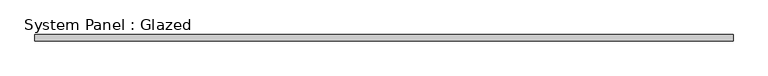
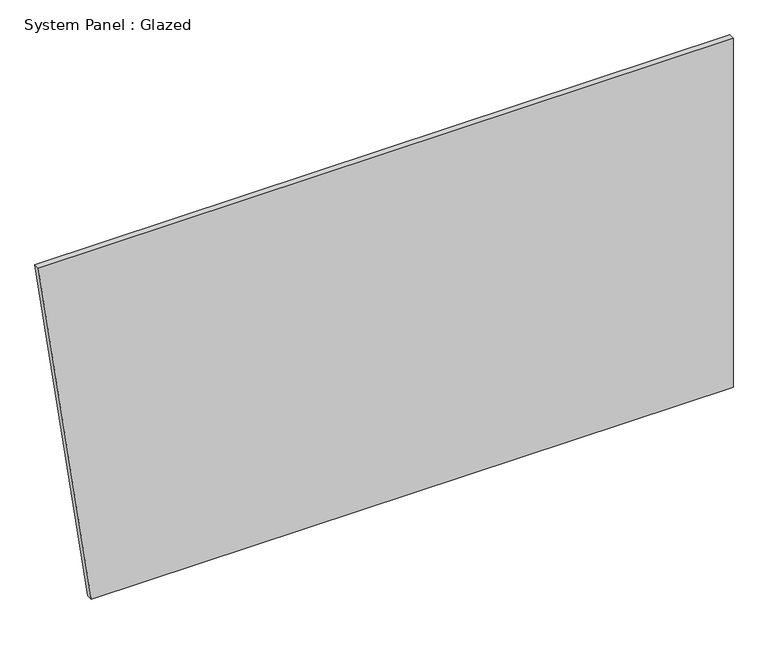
"""IFC4 building model written with IfcOpenShell, lengths in millimetres: plate geometry, System Panel : Glazed."""

import ifcopenshell
import ifcopenshell.guid

model = None  # the IFC model being written
_history = None  # IfcOwnerHistory: only IFC2X3 demands one
_inside = {}  # id of a spatial element -> (the spatial element, [elements in it])
_under = {}  # id of a project, library or spatial element -> (it, [spatial elements below it])
_declared = {}  # id of a project -> (the project, [libraries it declares])
_typed = {}  # id of a type object -> (the type object, [elements of that type])
_made_of = {}  # id of a material, layer set ... -> (it, [elements and type objects made of it])


def new_model(schema):
    """Start an empty IFC model of exactly this schema.

    Asked for "IFC4X3", IfcOpenShell would pick the latest addendum, in which some entities
    have other attributes; the version numbers below select the first issue.
    IFC2X3 requires an IfcOwnerHistory on every rooted entity: one is made here for all.
    """
    global model, _history
    if schema == "IFC4X3":
        model = ifcopenshell.file(schema_version=(4, 3, 0, 0))
    else:
        model = ifcopenshell.file(schema=schema)
    _inside.clear()
    _under.clear()
    _declared.clear()
    _typed.clear()
    _made_of.clear()
    _history = None
    if model.schema == "IFC2X3":
        org = make("IfcOrganization", Name="unknown")
        user = make(
            "IfcPersonAndOrganization",
            ThePerson=make("IfcPerson", FamilyName="unknown"),
            TheOrganization=org,
        )
        app = make(
            "IfcApplication",
            ApplicationDeveloper=org,
            Version="unknown",
            ApplicationFullName="unknown",
            ApplicationIdentifier="unknown",
        )
        _history = make(
            "IfcOwnerHistory",
            OwningUser=user,
            OwningApplication=app,
            ChangeAction="ADDED",
            CreationDate=0,
        )
    return model


def make(cls, **values):
    """One entity of the class cls with the attributes given. An attribute that is None is left unset."""
    return model.create_entity(
        cls, **{name: value for name, value in values.items() if value is not None}
    )


def rooted(cls, **values):
    """An entity with a GlobalId (a new one), such as an element, a storey or a relation."""
    return make(cls, GlobalId=ifcopenshell.guid.new(), OwnerHistory=_history, **values)


def si_unit(unit_type, name, prefix=None):
    """IfcSIUnit, for example si_unit("LENGTHUNIT", "METRE", prefix="MILLI")."""
    return make("IfcSIUnit", UnitType=unit_type, Prefix=prefix, Name=name)


def assignment(units):
    """IfcUnitAssignment: the units of a project."""
    return None if units is None else make("IfcUnitAssignment", Units=units)


def point(xyz):
    """IfcCartesianPoint."""
    return None if xyz is None else make("IfcCartesianPoint", Coordinates=xyz)


def direction(xyz):
    """IfcDirection."""
    return None if xyz is None else make("IfcDirection", DirectionRatios=xyz)


def frame(location, z_axis=None, x_axis=None):
    """IfcAxis2Placement3D, a coordinate frame: its origin and axes. An axis left out is left unset."""
    return make(
        "IfcAxis2Placement3D",
        Location=point(location),
        Axis=direction(z_axis),
        RefDirection=direction(x_axis),
    )


def origin():
    """The frame at (0, 0, 0) with its axes left unset."""
    return frame((0.0, 0.0, 0.0))


def place(relative_to, where):
    """IfcLocalPlacement: puts the frame where relative to a parent placement (None: the world)."""
    return make(
        "IfcLocalPlacement", PlacementRelTo=relative_to, RelativePlacement=where
    )


def context(
    kind, dimensions, precision=None, world=None, true_north=None, identifier=None
):
    """IfcGeometricRepresentationContext, for example the 3D "Model" context."""
    return make(
        "IfcGeometricRepresentationContext",
        ContextIdentifier=identifier,
        ContextType=kind,
        CoordinateSpaceDimension=dimensions,
        Precision=precision,
        WorldCoordinateSystem=world,
        TrueNorth=true_north,
    )


def project(units=None, contexts=None):
    """IfcProject with its units and contexts."""
    return rooted(
        "IfcProject",
        Name="project",
        RepresentationContexts=contexts,
        UnitsInContext=assignment(units),
    )


def spatial(cls, under=None, at=None, **own):
    """A site, building, storey or space (cls), placed at a placement, below another one or the project."""
    s = rooted(cls, ObjectPlacement=at, **own)
    if under is not None:
        _under.setdefault(under.id(), (under, []))[1].append(s)
    return s


def polyline(points):
    """IfcPolyline through the points."""
    return make("IfcPolyline", Points=[point(p) for p in points])


def outline(outer, holes=None, kind="AREA"):
    """IfcArbitraryClosedProfileDef: a profile drawn as a closed curve; with holes, ...WithVoids."""
    if holes is None:
        return make("IfcArbitraryClosedProfileDef", ProfileType=kind, OuterCurve=outer)
    return make(
        "IfcArbitraryProfileDefWithVoids",
        ProfileType=kind,
        OuterCurve=outer,
        InnerCurves=holes,
    )


def extrude(swept, where, along, depth):
    """IfcExtrudedAreaSolid: the profile swept, set in the frame where, extruded along a direction by depth."""
    return make(
        "IfcExtrudedAreaSolid",
        SweptArea=swept,
        Position=where,
        ExtrudedDirection=direction(along),
        Depth=depth,
    )


def shape(context_of_items, identifier, shape_type, items):
    """IfcShapeRepresentation: the items that make up one representation, for example the "Body"."""
    return make(
        "IfcShapeRepresentation",
        ContextOfItems=context_of_items,
        RepresentationIdentifier=identifier,
        RepresentationType=shape_type,
        Items=items,
    )


def source(mapping_origin, context_of_items, identifier, shape_type, items):
    """IfcRepresentationMap: a shape defined once, which mapped items show again and again."""
    return make(
        "IfcRepresentationMap",
        MappingOrigin=mapping_origin,
        MappedRepresentation=shape(context_of_items, identifier, shape_type, items),
    )


def transform(
    local_origin,
    x_axis=None,
    y_axis=None,
    z_axis=None,
    scale=None,
    scale2=None,
    scale3=None,
    uniform=True,
):
    """IfcCartesianTransformationOperator3D, or its non-uniform kind. x_axis, y_axis, z_axis: its Axis1, 2, 3."""
    if uniform:
        return make(
            "IfcCartesianTransformationOperator3D",
            Axis1=direction(x_axis),
            Axis2=direction(y_axis),
            LocalOrigin=point(local_origin),
            Scale=scale,
            Axis3=direction(z_axis),
        )
    return make(
        "IfcCartesianTransformationOperator3DnonUniform",
        Axis1=direction(x_axis),
        Axis2=direction(y_axis),
        LocalOrigin=point(local_origin),
        Scale=scale,
        Axis3=direction(z_axis),
        Scale2=scale2,
        Scale3=scale3,
    )


def mapped(mapping_source, mapping_target):
    """IfcMappedItem: shows the shape of a source again, moved by a transform."""
    return make(
        "IfcMappedItem", MappingSource=mapping_source, MappingTarget=mapping_target
    )


def made_of(thing, what):
    """Note that an element or type object is made of a material, layer set ...; save() writes the relation."""
    if what is not None:
        _made_of.setdefault(what.id(), (what, []))[1].append(thing)
    return thing


def element(
    cls,
    number,
    at=None,
    inside=None,
    cuts=None,
    type_object=None,
    material=None,
    context=None,
    identifier="Body",
    shape_type=None,
    held_by="IfcProductDefinitionShape",
    body=None,
    shapes=None,
    **own,
):
    """One element of the class cls, such as IfcWall. Its Tag is "e" and its number.

    at: its placement. inside: the storey or other place that contains it. cuts: it is an
    opening in that element (IfcRelVoidsElement). A single representation is given by context,
    identifier, shape_type and body (its items); several are given by shapes. held_by: the class
    of the entity that holds the representations. save() writes the other relations.
    """
    e = rooted(cls, Tag="e%d" % number, ObjectPlacement=at, **own)
    if body is not None:
        shapes = [shape(context, identifier, shape_type, body)]
    if shapes is not None:
        e.Representation = make(held_by, Representations=shapes)
    if inside is not None:
        _inside.setdefault(inside.id(), (inside, []))[1].append(e)
    if cuts is not None:
        rooted(
            "IfcRelVoidsElement", RelatingBuildingElement=cuts, RelatedOpeningElement=e
        )
    if type_object is not None:
        _typed.setdefault(type_object.id(), (type_object, []))[1].append(e)
    return made_of(e, material)


def aggregate(whole, parts):
    """IfcRelAggregates: a whole, such as a stair, and the parts it consists of."""
    return rooted("IfcRelAggregates", RelatingObject=whole, RelatedObjects=parts)


def save(model, path):
    """Write the relations noted so far, then the file.

    IfcRelAggregates (storeys below a building ...), IfcRelContainedInSpatialStructure (elements
    in a storey), IfcRelDefinesByType, IfcRelAssociatesMaterial and IfcRelDeclares: one each for
    every whole, place, type object, material and project.
    """
    for whole, parts in _under.values():
        aggregate(whole, parts)
    for where, things in _inside.values():
        rooted(
            "IfcRelContainedInSpatialStructure",
            RelatedElements=things,
            RelatingStructure=where,
        )
    for kind, things in _typed.values():
        rooted("IfcRelDefinesByType", RelatedObjects=things, RelatingType=kind)
    for what, things in _made_of.values():
        rooted("IfcRelAssociatesMaterial", RelatedObjects=things, RelatingMaterial=what)
    for by, libraries in _declared.values():
        rooted("IfcRelDeclares", RelatingContext=by, RelatedDefinitions=libraries)
    model.write(path)


def system_panel_glazed_d8f58ad4(model_context):
    return source(origin(), model_context, "Body", "SweptSolid", [
        extrude(outline(polyline([(0.0, -1217.0071944), (0.0, 1436.2877699), (1524.0, 1436.2877699), (1524.0, -1436.2877699), (0.0, -1217.0071944)])), frame((0.0, 19.05, 0.0), z_axis=(0.0, 1.0, 0.0), x_axis=(0.0, 0.0, 1.0)), (0.0, 0.0, 1.0), 25.4),
    ])


if __name__ == "__main__":
    model = new_model("IFC4")
    model_context = context("Model", 3, world=origin())
    ifc_project = project(units=[si_unit("LENGTHUNIT", "METRE", prefix="MILLI")], contexts=[model_context])
    site = spatial("IfcSite", under=ifc_project)
    building = spatial("IfcBuilding", under=site)
    placement = place(None, origin())
    system_panel_glazed_shape = system_panel_glazed_d8f58ad4(model_context)
    element("IfcPlate", 1, ObjectType="System Panel : Glazed", at=placement, inside=building, context=model_context, shape_type="MappedRepresentation", body=[
        mapped(system_panel_glazed_shape, transform((0.0, 0.0, 0.0), x_axis=(1.0, 0.0, 0.0), y_axis=(0.0, 1.0, 0.0), z_axis=(0.0, 0.0, 1.0))),
    ])
    save(model, "model.ifc")
